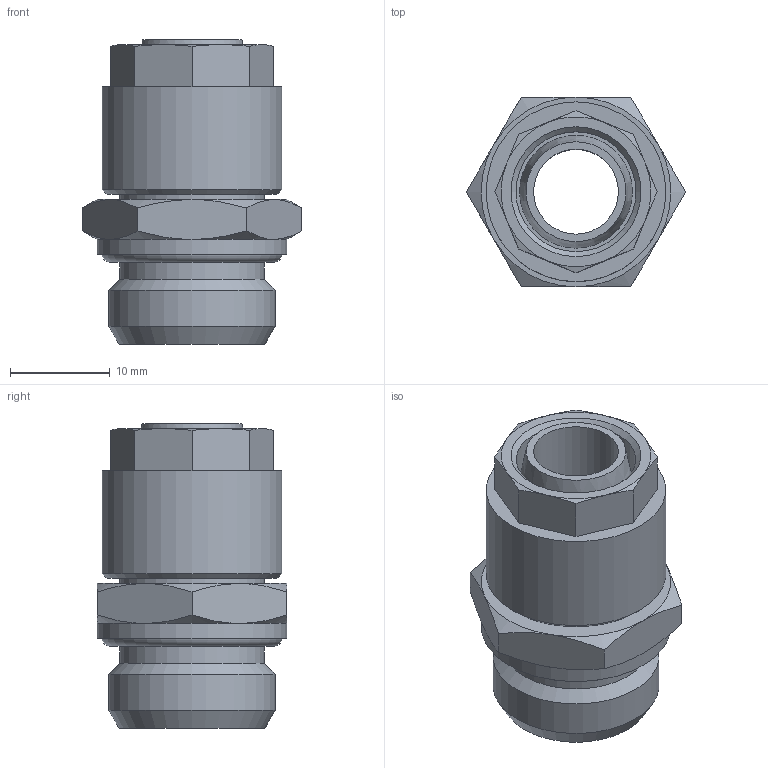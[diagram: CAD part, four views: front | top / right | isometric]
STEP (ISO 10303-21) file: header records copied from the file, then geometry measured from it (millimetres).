
FILE_DESCRIPTION(/* description */ (''),/* implementation_level */ '2;1');
FILE_NAME(/* name */ '10219_301Z_1210_38_15.09.15',/* time_stamp */ '2015-09-15T10:12:30+02:00',/* author */ (''),/* organization */ (''),/* preprocessor_version */ 'ST-DEVELOPER v14',/* originating_system */ 'HiCAD 2013 1802.4 Build 509',/* authorisation */ '');
FILE_SCHEMA (('AUTOMOTIVE_DESIGN { 1 0 10303 214 1 1 1 1 }'));
Length unit declared in the file: millimetre
Products named in the file (4): Root; OR 14X1.78; R10219; 17008
Assembly tree (3 placements, depth 2):
  Root
    OR 14X1.78
    R10219
    17008
Bounding box: 21.94 x 19 x 30.5 mm (x, y, z)
Volume: 4730.8 mm3; surface area: 4929.1 mm2
Topology: 3 solids, 3 shells, 71 faces, 156 edges, 96 vertices
Faces by surface type: cone 32, plane 24, cylinder 11, torus 4
Full cylindrical faces by diameter (mm): 8.5 x1, 10.5 x1, 11 x1, 12 x1, 14.5 x2, 14.73 x1, 16 x1, 16.662 x1, 18 x1, 19 x1
Entity records: 2969 total; most frequent: DIRECTION 364, CARTESIAN_POINT 276, PRESENTATION_STYLE_ASSIGNMENT 235, COLOUR_RGB 234, DRAUGHTING_PRE_DEFINED_CURVE_FONT 232, CURVE_STYLE 232, OVER_RIDING_STYLED_ITEM 232, ORIENTED_EDGE 232
